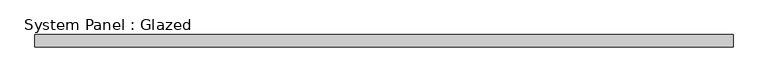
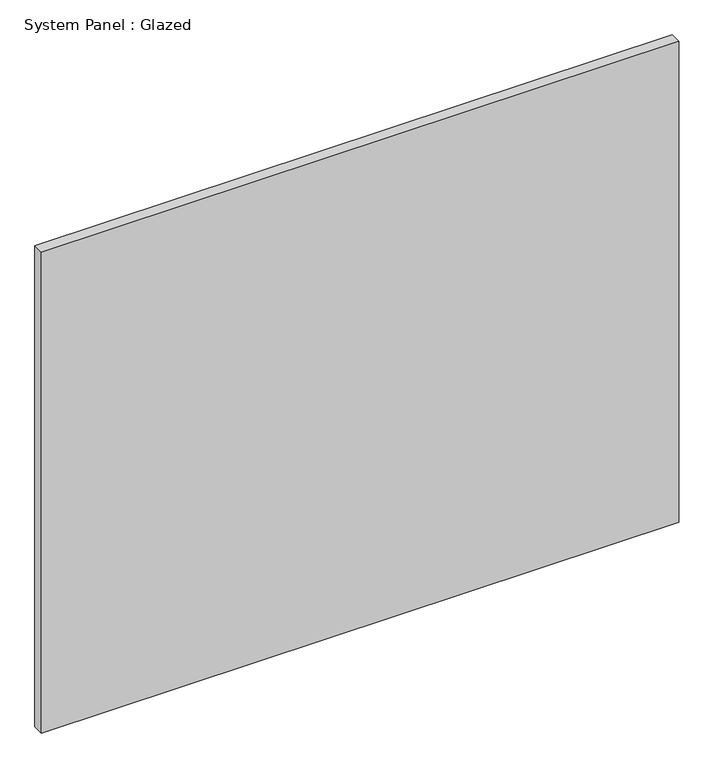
"""IFC4 building model written with IfcOpenShell, lengths in millimetres: plate geometry, System Panel : Glazed."""

from ifc_helpers import new_model, si_unit, origin, origin_with_axes, place, context, project, spatial, polyline, outline, extrude, source, transform, mapped, element, save


def system_panel_glazed_ab6b353c(model_context):
    return source(origin(), model_context, "Body", "SweptSolid", [
        extrude(outline(polyline([(705.5555556, 24.5), (-705.5555556, 24.5), (-705.5555556, 49.5), (705.5555556, 49.5), (705.5555556, 24.5)])), origin_with_axes(), (0.0, 0.0, 1.0), 1125.0),
    ])


if __name__ == "__main__":
    model = new_model("IFC4")
    model_context = context("Model", 3, world=origin())
    ifc_project = project(units=[si_unit("LENGTHUNIT", "METRE", prefix="MILLI")], contexts=[model_context])
    site = spatial("IfcSite", under=ifc_project)
    building = spatial("IfcBuilding", under=site)
    placement = place(None, origin())
    system_panel_glazed_shape = system_panel_glazed_ab6b353c(model_context)
    element("IfcPlate", 1, ObjectType="System Panel : Glazed", at=placement, inside=building, context=model_context, shape_type="MappedRepresentation", body=[
        mapped(system_panel_glazed_shape, transform((0.0, 0.0, 0.0), x_axis=(1.0, 0.0, 0.0), y_axis=(0.0, 1.0, 0.0), z_axis=(0.0, 0.0, 1.0))),
    ])
    save(model, "model.ifc")
